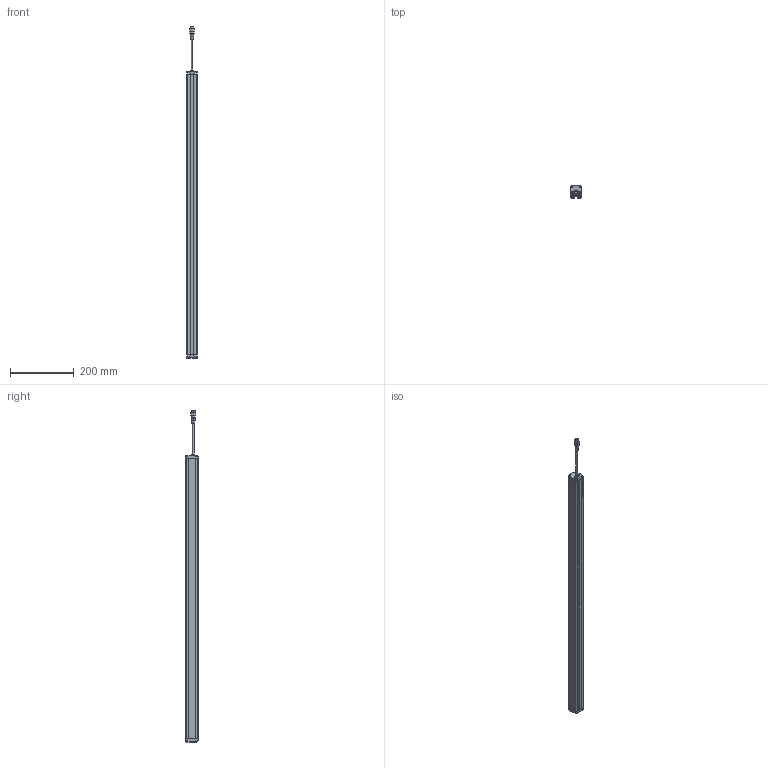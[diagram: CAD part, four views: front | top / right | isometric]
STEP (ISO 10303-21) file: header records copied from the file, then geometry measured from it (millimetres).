
FILE_DESCRIPTION((''),'2;1');
FILE_NAME('PRT0022','2026-03-31T11:19:14',('Administrator'),(''),'CREO PARAMETRIC BY PTC INC, 2016510','CREO PARAMETRIC BY PTC INC, 2016510','');
FILE_SCHEMA(('AUTOMOTIVE_DESIGN { 1 0 10303 214 1 1 1 1 }'));
Length unit declared in the file: millimetre
Products named in the file (1): PRT0022
Bounding box: 33 x 38 x 1041.9 mm (x, y, z)
Surface area: 201122.8 mm2 (no closed solid volume)
Topology: 0 solids, 12 shells, 819 faces, 2190 edges, 1390 vertices
Faces by surface type: plane 388, cylinder 235, extrusion 88, sphere 40, torus 36, cone 28, bspline 4
Entity records: 32415 total; most frequent: CARTESIAN_POINT 6116, ORIENTED_EDGE 4276, DIRECTION 4046, EDGE_CURVE 2138, VERTEX_POINT 1390, AXIS2_PLACEMENT_3D 1377, VECTOR 1292, LINE 1204
